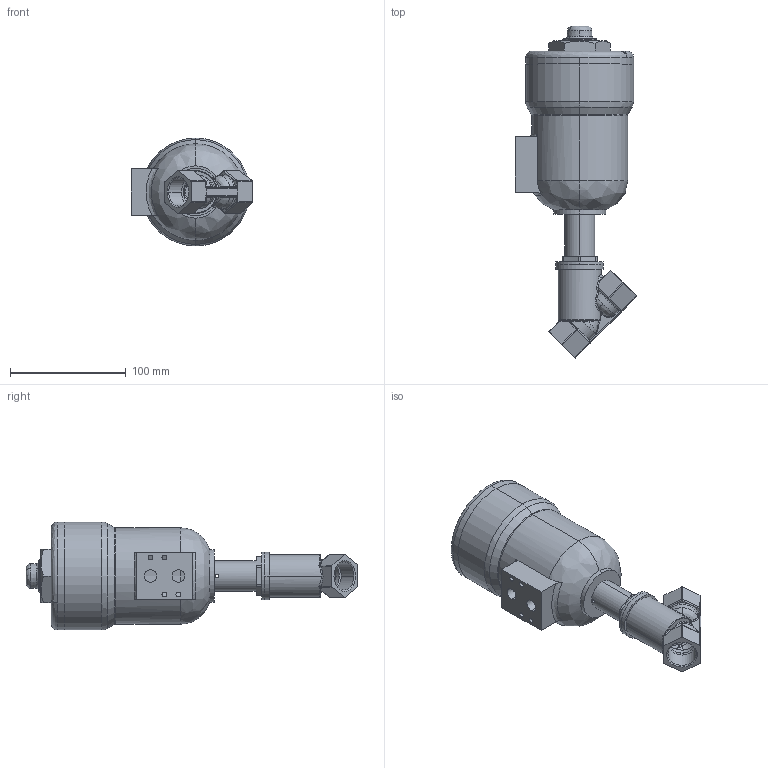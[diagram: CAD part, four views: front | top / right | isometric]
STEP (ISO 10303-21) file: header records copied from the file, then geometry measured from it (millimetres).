
FILE_DESCRIPTION (( 'STEP AP203' ), '1' );
FILE_NAME ('PCIPFM_020_2_1.STEP', '2017-07-25T15:39:05', ( 'user' ), ( '' ), 'SwSTEP 2.0', 'SolidWorks 2013', '' );
FILE_SCHEMA (( 'CONFIG_CONTROL_DESIGN' ));
Length unit declared in the file: millimetre
Products named in the file (1): PCIPFM_020_2_1
Bounding box: 104.72 x 286.19 x 93 mm (x, y, z)
Surface area: 79827.6 mm2 (no closed solid volume)
Topology: 0 solids, 10 shells, 315 faces, 838 edges, 517 vertices
Faces by surface type: bspline 107, cylinder 102, plane 75, cone 31
Entity records: 16848 total; most frequent: CARTESIAN_POINT 9865, ORIENTED_EDGE 1517, DIRECTION 1267, EDGE_CURVE 820, VERTEX_POINT 517, AXIS2_PLACEMENT_3D 503, EDGE_LOOP 339, FACE_OUTER_BOUND 315
